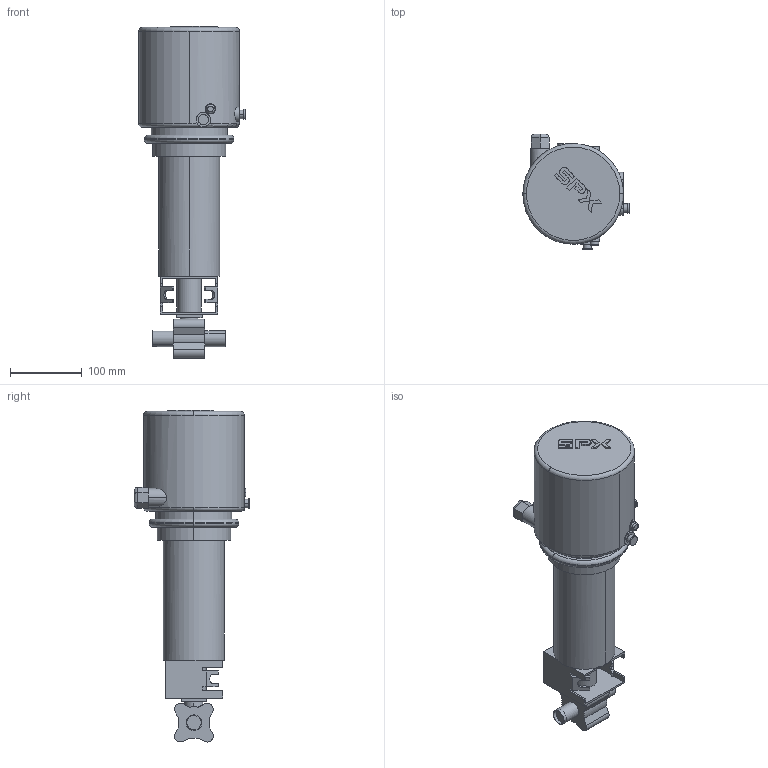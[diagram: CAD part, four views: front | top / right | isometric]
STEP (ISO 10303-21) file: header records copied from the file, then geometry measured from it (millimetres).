
FILE_DESCRIPTION(('Creo Elements/Direct Modeling STEP Export'),'2;1');
FILE_NAME('BLV1-DN20-NC-12S-CU4.stp','2019-05-09T13:50:23',(''),(''),'Creo Elements/Direct Modeling STEP processor for AP214 (Solid Model)','Creo Elements/Direct Modeling 19.0F 14-Feb-2017 (C) Parametric Technology GmbH','');
FILE_SCHEMA(('AUTOMOTIVE_DESIGN { 1 0 10303 214 1 1 1 1 }'));
Length unit declared in the file: millimetre
Products named in the file (2): BLV1-DN20-NC-12S-CU4
Assembly tree (1 placements, depth 2):
  BLV1-DN20-NC-12S-CU4
    BLV1-DN20-NC-12S-CU4
Bounding box: 148 x 161.4 x 462.43 mm (x, y, z)
Volume: 3687383.5 mm3; surface area: 223395.2 mm2
Topology: 1 solids, 1 shells, 228 faces, 586 edges, 383 vertices
Faces by surface type: plane 104, cylinder 81, extrusion 33, torus 10
Entity records: 10247 total; most frequent: CARTESIAN_POINT 5049, ORIENTED_EDGE 1174, DIRECTION 906, EDGE_CURVE 587, VERTEX_POINT 383, VECTOR 312, AXIS2_PLACEMENT_3D 297, LINE 279
